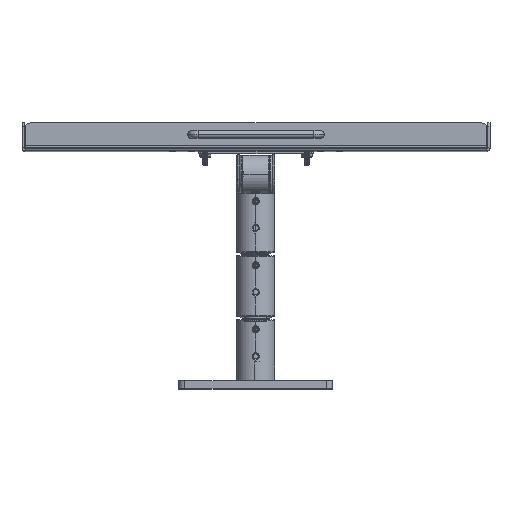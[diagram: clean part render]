
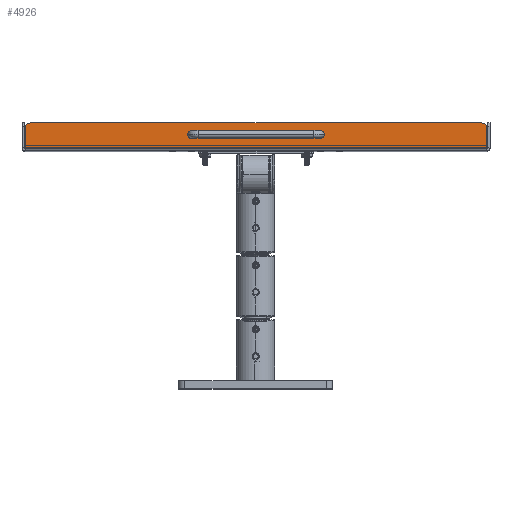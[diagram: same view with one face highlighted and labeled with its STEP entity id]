
A CAD part, top view. The second image highlights one B-rep face of the part: STEP entity #4926.
In plain terms, the highlighted planar face has unit normal (0, 0, 1).
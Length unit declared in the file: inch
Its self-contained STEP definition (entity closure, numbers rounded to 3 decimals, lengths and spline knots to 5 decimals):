
#585 = EDGE_CURVE ( 'NONE', #12562, #16118, #32395, .T. ) ;
#1203 = EDGE_CURVE ( 'NONE', #5657, #28708, #30298, .T. ) ;
#1565 = CARTESIAN_POINT ( 'NONE',  ( -8.96464, 0.032, 6.09 ) ) ;
#1579 = DIRECTION ( 'NONE',  ( 0., 0., 1. ) ) ;
#2071 = ORIENTED_EDGE ( 'NONE', *, *, #4862, .F. ) ;
#2876 = EDGE_LOOP ( 'NONE', ( #23848, #25918 ) ) ;
#3565 = EDGE_CURVE ( 'NONE', #33702, #17524, #5738, .T. ) ;
#4097 = CIRCLE ( 'NONE', #6413, 0.1005 ) ;
#4862 = EDGE_CURVE ( 'NONE', #24136, #17524, #23626, .T. ) ;
#4926 = ADVANCED_FACE ( 'NONE', ( #9931, #15398, #35113 ), #26522, .T. ) ;
#5339 = DIRECTION ( 'NONE',  ( 1., 0., 0. ) ) ;
#5657 = VERTEX_POINT ( 'NONE', #27779 ) ;
#5738 = LINE ( 'NONE', #21994, #16240 ) ;
#6154 = DIRECTION ( 'NONE',  ( -1., 0., 0. ) ) ;
#6413 = AXIS2_PLACEMENT_3D ( 'NONE', #33882, #31121, #6154 ) ;
#6661 = DIRECTION ( 'NONE',  ( -1., 0., 0. ) ) ;
#6758 = DIRECTION ( 'NONE',  ( -1., 0., 0. ) ) ;
#7131 = EDGE_LOOP ( 'NONE', ( #2071, #32926, #23303, #15526, #10899, #21839 ) ) ;
#8297 = AXIS2_PLACEMENT_3D ( 'NONE', #20376, #26515, #6661 ) ;
#8303 = CARTESIAN_POINT ( 'NONE',  ( -2.5, 0.55, 6.09 ) ) ;
#9287 = CARTESIAN_POINT ( 'NONE',  ( -8.96464, 0.87817, 6.09 ) ) ;
#9931 = FACE_BOUND ( 'NONE', #2876, .T. ) ;
#10005 = CIRCLE ( 'NONE', #8297, 0.1005 ) ;
#10080 = CARTESIAN_POINT ( 'NONE',  ( -8.96464, 0.75, 6.09 ) ) ;
#10114 = DIRECTION ( 'NONE',  ( 0., -1., 0. ) ) ;
#10304 = CARTESIAN_POINT ( 'NONE',  ( 8.96464, 0.75, 6.09 ) ) ;
#10429 = CARTESIAN_POINT ( 'NONE',  ( -2.3995, 0.55, 6.09 ) ) ;
#10899 = ORIENTED_EDGE ( 'NONE', *, *, #26954, .T. ) ;
#10911 = EDGE_CURVE ( 'NONE', #13389, #5657, #34085, .T. ) ;
#11364 = VECTOR ( 'NONE', #21448, 39.37008 ) ;
#11484 = CARTESIAN_POINT ( 'NONE',  ( 8.75, 1., 6.09 ) ) ;
#11876 = DIRECTION ( 'NONE',  ( 0., 0., -1. ) ) ;
#12562 = VERTEX_POINT ( 'NONE', #24174 ) ;
#13389 = VERTEX_POINT ( 'NONE', #9287 ) ;
#14216 = AXIS2_PLACEMENT_3D ( 'NONE', #21085, #1579, #10114 ) ;
#14600 = DIRECTION ( 'NONE',  ( 0., 0., -1. ) ) ;
#15398 = FACE_OUTER_BOUND ( 'NONE', #7131, .T. ) ;
#15526 = ORIENTED_EDGE ( 'NONE', *, *, #10911, .F. ) ;
#15853 = ORIENTED_EDGE ( 'NONE', *, *, #34994, .T. ) ;
#16118 = VERTEX_POINT ( 'NONE', #10429 ) ;
#16240 = VECTOR ( 'NONE', #30352, 39.37008 ) ;
#17085 = EDGE_CURVE ( 'NONE', #21757, #18200, #4097, .T. ) ;
#17244 = CARTESIAN_POINT ( 'NONE',  ( -8.75, 0.75, 6.09 ) ) ;
#17378 = AXIS2_PLACEMENT_3D ( 'NONE', #19556, #14600, #31173 ) ;
#17524 = VERTEX_POINT ( 'NONE', #29750 ) ;
#17762 = AXIS2_PLACEMENT_3D ( 'NONE', #17244, #28351, #19468 ) ;
#18200 = VERTEX_POINT ( 'NONE', #19990 ) ;
#19428 = DIRECTION ( 'NONE',  ( 0., 0., -1. ) ) ;
#19468 = DIRECTION ( 'NONE',  ( 0., -1., 0. ) ) ;
#19556 = CARTESIAN_POINT ( 'NONE',  ( 8.75, 0.75, 6.09 ) ) ;
#19990 = CARTESIAN_POINT ( 'NONE',  ( 2.6005, 0.55, 6.09 ) ) ;
#20376 = CARTESIAN_POINT ( 'NONE',  ( 2.5, 0.55, 6.09 ) ) ;
#20795 = VECTOR ( 'NONE', #5339, 39.37008 ) ;
#21048 = LINE ( 'NONE', #10080, #27471 ) ;
#21085 = CARTESIAN_POINT ( 'NONE',  ( 8.75, 0.75, 6.09 ) ) ;
#21448 = DIRECTION ( 'NONE',  ( 0., -1., 0. ) ) ;
#21757 = VERTEX_POINT ( 'NONE', #31646 ) ;
#21839 = ORIENTED_EDGE ( 'NONE', *, *, #3565, .T. ) ;
#21994 = CARTESIAN_POINT ( 'NONE',  ( 8.75, 0.032, 6.09 ) ) ;
#22051 = AXIS2_PLACEMENT_3D ( 'NONE', #8303, #19428, #22875 ) ;
#22875 = DIRECTION ( 'NONE',  ( -1., 0., 0. ) ) ;
#23303 = ORIENTED_EDGE ( 'NONE', *, *, #1203, .F. ) ;
#23626 = LINE ( 'NONE', #10304, #11364 ) ;
#23848 = ORIENTED_EDGE ( 'NONE', *, *, #31580, .T. ) ;
#24136 = VERTEX_POINT ( 'NONE', #26621 ) ;
#24174 = CARTESIAN_POINT ( 'NONE',  ( -2.6005, 0.55, 6.09 ) ) ;
#25918 = ORIENTED_EDGE ( 'NONE', *, *, #585, .T. ) ;
#26244 = CARTESIAN_POINT ( 'NONE',  ( -2.5, 0.55, 6.09 ) ) ;
#26449 = ORIENTED_EDGE ( 'NONE', *, *, #17085, .T. ) ;
#26515 = DIRECTION ( 'NONE',  ( 0., 0., -1. ) ) ;
#26522 = PLANE ( 'NONE',  #14216 ) ;
#26621 = CARTESIAN_POINT ( 'NONE',  ( 8.96464, 0.87817, 6.09 ) ) ;
#26726 = CIRCLE ( 'NONE', #22051, 0.1005 ) ;
#26954 = EDGE_CURVE ( 'NONE', #13389, #33702, #21048, .T. ) ;
#27367 = CARTESIAN_POINT ( 'NONE',  ( 8.75, 1., 6.09 ) ) ;
#27471 = VECTOR ( 'NONE', #32702, 39.37008 ) ;
#27779 = CARTESIAN_POINT ( 'NONE',  ( -8.75, 1., 6.09 ) ) ;
#28351 = DIRECTION ( 'NONE',  ( 0., 0., -1. ) ) ;
#28708 = VERTEX_POINT ( 'NONE', #11484 ) ;
#29750 = CARTESIAN_POINT ( 'NONE',  ( 8.96464, 0.032, 6.09 ) ) ;
#30298 = LINE ( 'NONE', #27367, #20795 ) ;
#30352 = DIRECTION ( 'NONE',  ( 1., 0., 0. ) ) ;
#31121 = DIRECTION ( 'NONE',  ( 0., 0., -1. ) ) ;
#31173 = DIRECTION ( 'NONE',  ( 0., -1., 0. ) ) ;
#31580 = EDGE_CURVE ( 'NONE', #16118, #12562, #26726, .T. ) ;
#31646 = CARTESIAN_POINT ( 'NONE',  ( 2.3995, 0.55, 6.09 ) ) ;
#32239 = EDGE_CURVE ( 'NONE', #28708, #24136, #33114, .T. ) ;
#32395 = CIRCLE ( 'NONE', #32973, 0.1005 ) ;
#32702 = DIRECTION ( 'NONE',  ( 0., -1., 0. ) ) ;
#32926 = ORIENTED_EDGE ( 'NONE', *, *, #32239, .F. ) ;
#32973 = AXIS2_PLACEMENT_3D ( 'NONE', #26244, #11876, #6758 ) ;
#33114 = CIRCLE ( 'NONE', #17378, 0.25 ) ;
#33702 = VERTEX_POINT ( 'NONE', #1565 ) ;
#33882 = CARTESIAN_POINT ( 'NONE',  ( 2.5, 0.55, 6.09 ) ) ;
#34085 = CIRCLE ( 'NONE', #17762, 0.25 ) ;
#34994 = EDGE_CURVE ( 'NONE', #18200, #21757, #10005, .T. ) ;
#35113 = FACE_BOUND ( 'NONE', #35401, .T. ) ;
#35401 = EDGE_LOOP ( 'NONE', ( #15853, #26449 ) ) ;
